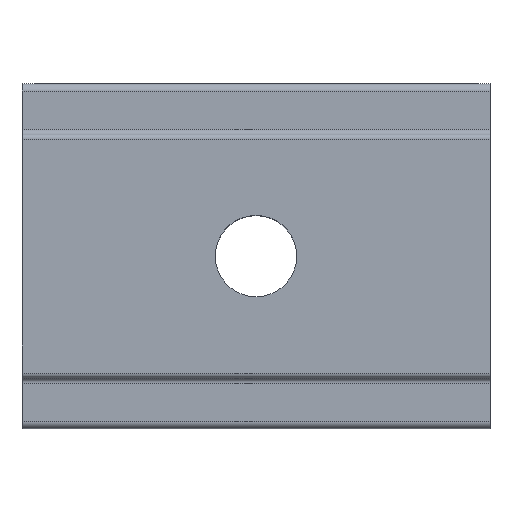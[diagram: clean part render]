
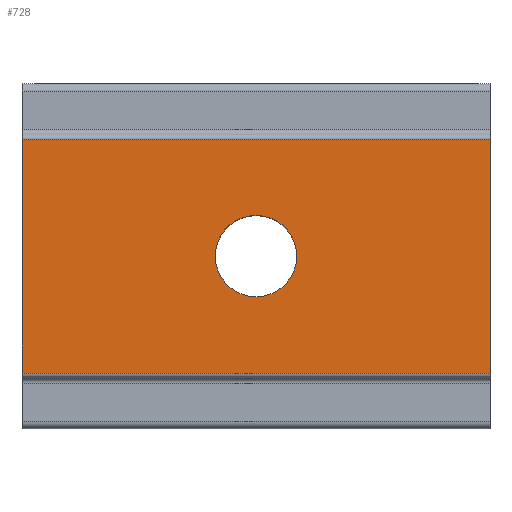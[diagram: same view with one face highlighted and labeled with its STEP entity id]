
A CAD part, top view. The second image highlights one B-rep face of the part: STEP entity #728.
In plain terms, the highlighted planar face has unit normal (0, 0, 1).
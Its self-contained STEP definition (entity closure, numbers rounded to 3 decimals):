
#76 = DIRECTION ( 'NONE',  ( 1., 0., 0. ) ) ;
#95 = VERTEX_POINT ( 'NONE', #1076 ) ;
#135 = EDGE_LOOP ( 'NONE', ( #1037, #1457 ) ) ;
#138 = VECTOR ( 'NONE', #1299, 1000. ) ;
#155 = LINE ( 'NONE', #976, #1128 ) ;
#166 = EDGE_CURVE ( 'NONE', #336, #694, #932, .T. ) ;
#215 = EDGE_CURVE ( 'NONE', #907, #95, #298, .T. ) ;
#236 = CIRCLE ( 'NONE', #1470, 1.65 ) ;
#254 = PLANE ( 'NONE',  #1304 ) ;
#298 = CIRCLE ( 'NONE', #1087, 1.65 ) ;
#336 = VERTEX_POINT ( 'NONE', #1302 ) ;
#346 = LINE ( 'NONE', #838, #138 ) ;
#376 = LINE ( 'NONE', #1221, #924 ) ;
#379 = DIRECTION ( 'NONE',  ( 0., -1., 0. ) ) ;
#408 = VERTEX_POINT ( 'NONE', #1327 ) ;
#419 = EDGE_CURVE ( 'NONE', #408, #336, #155, .T. ) ;
#420 = DIRECTION ( 'NONE',  ( 0., 0., 1. ) ) ;
#425 = DIRECTION ( 'NONE',  ( 1., 0., 0. ) ) ;
#485 = ORIENTED_EDGE ( 'NONE', *, *, #166, .F. ) ;
#539 = CARTESIAN_POINT ( 'NONE',  ( 0., 0., 0. ) ) ;
#628 = DIRECTION ( 'NONE',  ( 0., 1., 0. ) ) ;
#637 = ORIENTED_EDGE ( 'NONE', *, *, #419, .F. ) ;
#666 = ORIENTED_EDGE ( 'NONE', *, *, #842, .F. ) ;
#694 = VERTEX_POINT ( 'NONE', #1371 ) ;
#728 = ADVANCED_FACE ( 'NONE', ( #1092, #1190 ), #254, .F. ) ;
#730 = DIRECTION ( 'NONE',  ( 0., 0., -1. ) ) ;
#754 = CARTESIAN_POINT ( 'NONE',  ( -1.65, 0., 0. ) ) ;
#782 = EDGE_CURVE ( 'NONE', #802, #408, #346, .T. ) ;
#783 = ORIENTED_EDGE ( 'NONE', *, *, #782, .F. ) ;
#785 = DIRECTION ( 'NONE',  ( -1., 0., 0. ) ) ;
#802 = VERTEX_POINT ( 'NONE', #958 ) ;
#814 = DIRECTION ( 'NONE',  ( -1., 0., 0. ) ) ;
#838 = CARTESIAN_POINT ( 'NONE',  ( 9.5, 4.75, 0. ) ) ;
#842 = EDGE_CURVE ( 'NONE', #694, #802, #376, .T. ) ;
#861 = CARTESIAN_POINT ( 'NONE',  ( 0., 0., 0. ) ) ;
#907 = VERTEX_POINT ( 'NONE', #754 ) ;
#924 = VECTOR ( 'NONE', #628, 1000. ) ;
#932 = LINE ( 'NONE', #1025, #1253 ) ;
#933 = EDGE_CURVE ( 'NONE', #95, #907, #236, .T. ) ;
#937 = EDGE_LOOP ( 'NONE', ( #485, #637, #783, #666 ) ) ;
#958 = CARTESIAN_POINT ( 'NONE',  ( -9.5, 4.75, 0. ) ) ;
#976 = CARTESIAN_POINT ( 'NONE',  ( 9.5, 4.75, 0. ) ) ;
#1025 = CARTESIAN_POINT ( 'NONE',  ( 9.5, -4.75, 0. ) ) ;
#1037 = ORIENTED_EDGE ( 'NONE', *, *, #933, .F. ) ;
#1052 = DIRECTION ( 'NONE',  ( 0., 0., 1. ) ) ;
#1076 = CARTESIAN_POINT ( 'NONE',  ( 1.65, 0., 0. ) ) ;
#1087 = AXIS2_PLACEMENT_3D ( 'NONE', #539, #1052, #425 ) ;
#1092 = FACE_OUTER_BOUND ( 'NONE', #937, .T. ) ;
#1128 = VECTOR ( 'NONE', #379, 1000. ) ;
#1190 = FACE_BOUND ( 'NONE', #135, .T. ) ;
#1198 = CARTESIAN_POINT ( 'NONE',  ( 9.5, 4.75, 0. ) ) ;
#1221 = CARTESIAN_POINT ( 'NONE',  ( -9.5, 4.75, 0. ) ) ;
#1253 = VECTOR ( 'NONE', #785, 1000. ) ;
#1299 = DIRECTION ( 'NONE',  ( 1., 0., 0. ) ) ;
#1302 = CARTESIAN_POINT ( 'NONE',  ( 9.5, -4.75, 0. ) ) ;
#1304 = AXIS2_PLACEMENT_3D ( 'NONE', #1198, #730, #814 ) ;
#1327 = CARTESIAN_POINT ( 'NONE',  ( 9.5, 4.75, 0. ) ) ;
#1371 = CARTESIAN_POINT ( 'NONE',  ( -9.5, -4.75, 0. ) ) ;
#1457 = ORIENTED_EDGE ( 'NONE', *, *, #215, .F. ) ;
#1470 = AXIS2_PLACEMENT_3D ( 'NONE', #861, #420, #76 ) ;
